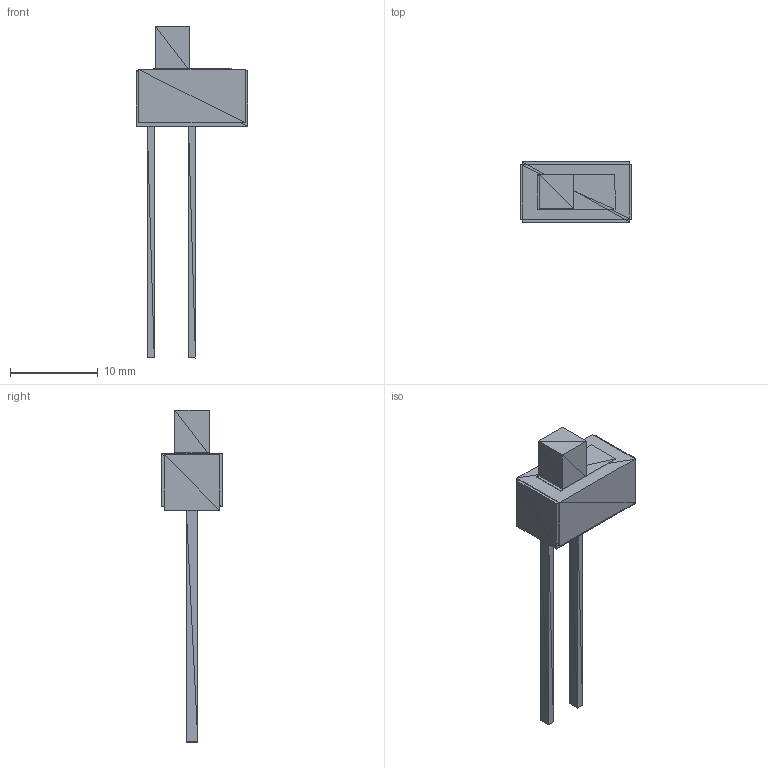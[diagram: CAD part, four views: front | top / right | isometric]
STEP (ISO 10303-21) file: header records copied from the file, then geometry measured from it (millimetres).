
FILE_DESCRIPTION(('HOOPS Exchange Step'),'2;1');
FILE_NAME('***.stp');
FILE_SCHEMA( ('AP242_MANAGED_MODEL_BASED_3D_ENGINEERING_MIM_LF {1 0 10303 442 1 1 4 }') );
Length unit declared in the file: inch
Products named in the file (7): SWSPSTT_SLD_2; SWSPSTT_SLD_3; SWSPSTT_SLD_4; SWSPSTT_SLD_5; SWSPSTT_SLD_6; SWSPSTT_SLD_7; SWSPSTT_SLD
Assembly tree (6 placements, depth 2):
  SWSPSTT_SLD
    SWSPSTT_SLD_2
    SWSPSTT_SLD_3
    SWSPSTT_SLD_4
    SWSPSTT_SLD_5
    SWSPSTT_SLD_6
    SWSPSTT_SLD_7
Bounding box: 12.7 x 6.86 x 37.85 mm (x, y, z)
Volume: 1378 mm3; surface area: 1376.7 mm2
Topology: 6 solids, 6 shells, 72 faces, 108 edges, 48 vertices
Faces by surface type: plane 72
Entity records: 1722 total; most frequent: DIRECTION 280, CARTESIAN_POINT 242, ORIENTED_EDGE 216, VECTOR 108, LINE 108, EDGE_CURVE 108, AXIS2_PLACEMENT_3D 86, PLANE 72
